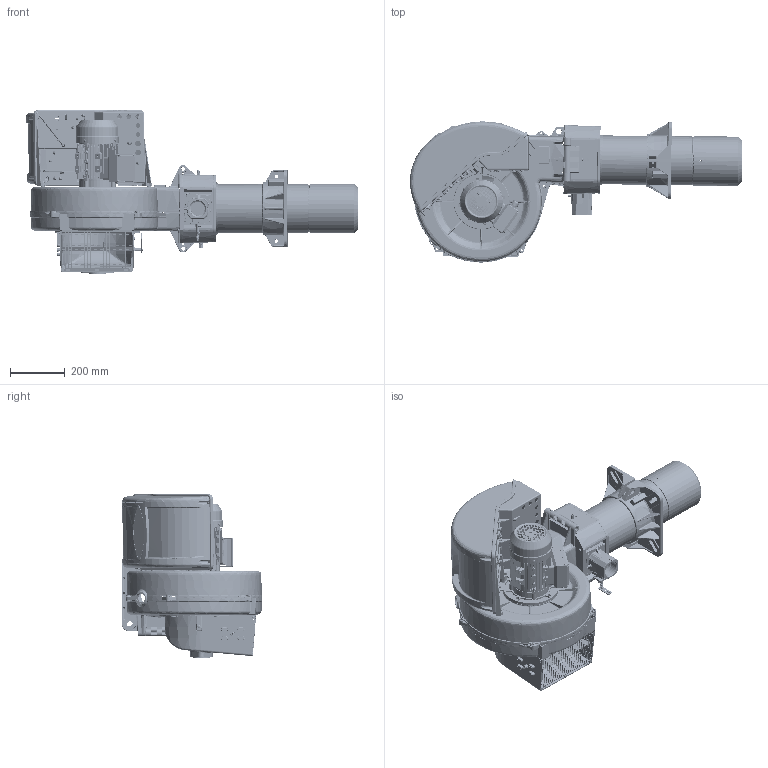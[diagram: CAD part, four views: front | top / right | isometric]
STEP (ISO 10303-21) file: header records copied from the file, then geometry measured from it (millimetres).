
FILE_DESCRIPTION (( 'STEP AP214' ), '1' );
FILE_NAME ('TBG85P.STEP', '2017-07-05T07:30:54', ( '' ), ( '' ), 'SwSTEP 2.0', 'SolidWorks 2016', '' );
FILE_SCHEMA (( 'AUTOMOTIVE_DESIGN' ));
Length unit declared in the file: millimetre
Products named in the file (1): TBG85P
Bounding box: 1207.43 x 512.49 x 595.72 mm (x, y, z)
Surface area: 3210893.7 mm2 (no closed solid volume)
Topology: 0 solids, 201 shells, 3959 faces, 17262 edges, 12969 vertices
Faces by surface type: plane 1872, cylinder 989, bspline 931, cone 151, torus 11, sphere 5
Full cylindrical faces by diameter (mm): 1.2 x2, 2 x1, 3.7 x4, 3.9 x2, 4 x1, 4.2 x10, 4.8 x3, 5 x7, 5.1 x1, 5.4 x3, 6 x15, 6.8 x2, 7 x12, 7.5 x2, 8 x12, 8.5 x6, 8.8 x1, 9 x5, 10 x3, 11 x4, 12 x4, 14 x4, 15 x3, 19 x2, 20 x2, 20.2 x2, 23 x1, 29 x1, 50.4 x1, 57 x1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
Entity records: 378030 total; most frequent: CARTESIAN_POINT 215839, ORIENTED_EDGE 24147, DIRECTION 17422, EDGE_CURVE 16829, VERTEX_POINT 12867, LINE 8232, VECTOR 8232, B_SPLINE_CURVE_WITH_KNOTS 6654
